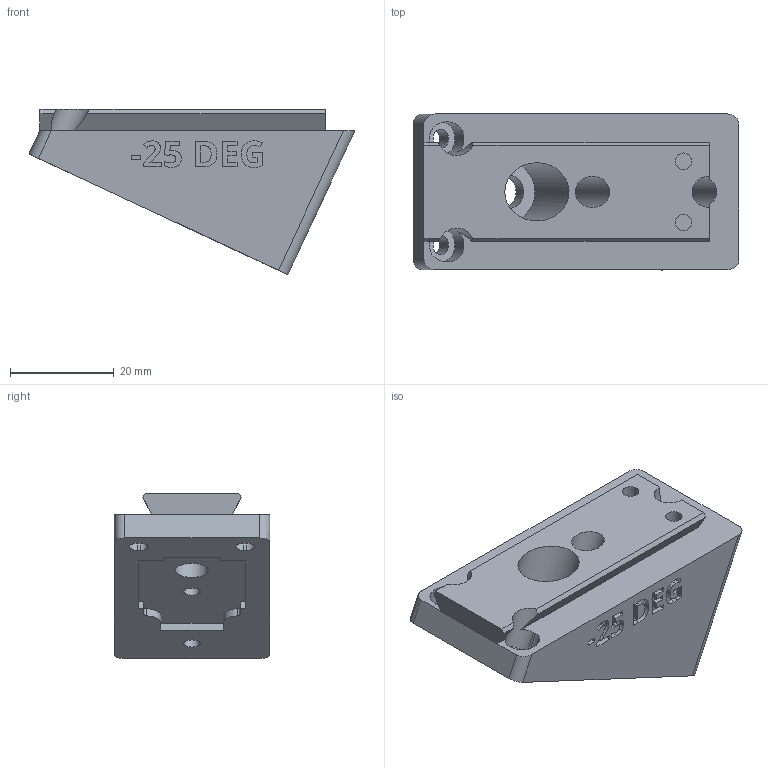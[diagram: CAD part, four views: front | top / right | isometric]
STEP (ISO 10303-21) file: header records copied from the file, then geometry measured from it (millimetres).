
FILE_DESCRIPTION(/* description */ ('STEP AP242 Edition 2','CAx-IF Rec.Pracs.---Representation and Presentation of Product Manufacturing Information (PMI)---4.0---2014-10-13','CAx-IF Rec.Pracs.---3D Tessellated Geometry---0.4---2014-09-14','2;1','CAx-IF Rec.Pracs.---User Defined Attributes---1.5---2016-08-15'),/* implementation_level */ '2;1');
FILE_NAME(/* name */ 'Camera Wedges - CAMERA MOUNTING WEDGE, NEG, -25 DEG',/* time_stamp */ '2026-07-08T20:35:56Z',/* author */ (''),/* organization */ (''),/* preprocessor_version */ 'ST-DEVELOPER v20',/* originating_system */ 'ONSHAPE BY PTC INC, 1.217',/* authorisation */ ' ');
FILE_SCHEMA (('AP242_MANAGED_MODEL_BASED_3D_ENGINEERING_MIM_LF { 1 0 10303 442 3 1 4 }'));
Length unit declared in the file: metre
Products named in the file (1): CAMERA MOUNTING WEDGE, NEG, -25 DEG
Bounding box: 62.78 x 30 x 31.83 mm (x, y, z)
Volume: 29105.6 mm3; surface area: 9165.3 mm2
Topology: 1 solids, 1 shells, 274 faces, 757 edges, 504 vertices
Faces by surface type: plane 154, cylinder 62, bspline 58
Full cylindrical faces by diameter (mm): 3.2 x4, 6 x2, 6.4 x1, 11.2 x1
Entity records: 8909 total; most frequent: CARTESIAN_POINT 2164, ORIENTED_EDGE 1496, DIRECTION 1205, EDGE_CURVE 748, VERTEX_POINT 503, LINE 493, VECTOR 493, AXIS2_PLACEMENT_3D 356
